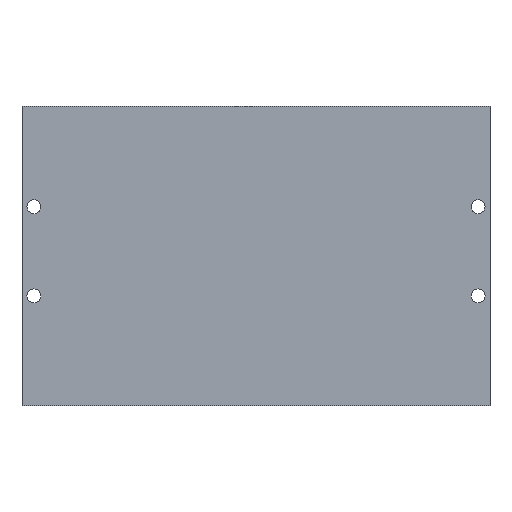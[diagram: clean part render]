
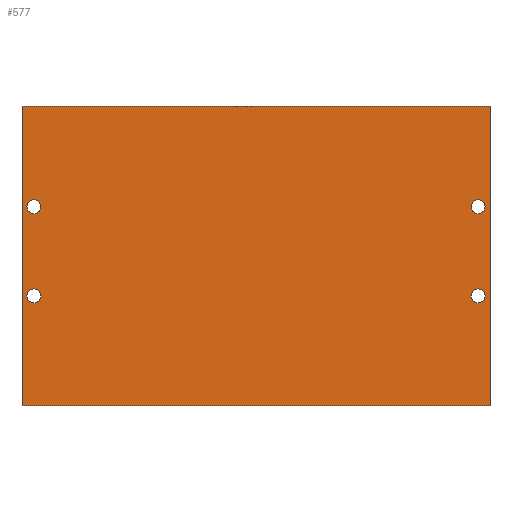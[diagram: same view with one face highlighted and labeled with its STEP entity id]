
A CAD part, front view. The second image highlights one B-rep face of the part: STEP entity #577.
In plain terms, the highlighted planar face has unit normal (0, -1, 0).
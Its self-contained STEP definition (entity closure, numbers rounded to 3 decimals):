
#2 = CARTESIAN_POINT ( 'NONE',  ( -56., 0., -8.3 ) ) ;
#21 = CARTESIAN_POINT ( 'NONE',  ( 59., 0., -37.75 ) ) ;
#22 = DIRECTION ( 'NONE',  ( 0., 0., 1. ) ) ;
#26 = VERTEX_POINT ( 'NONE', #531 ) ;
#31 = VERTEX_POINT ( 'NONE', #275 ) ;
#40 = DIRECTION ( 'NONE',  ( 0., 0., 1. ) ) ;
#41 = CARTESIAN_POINT ( 'NONE',  ( 56., 0., -10.05 ) ) ;
#44 = EDGE_CURVE ( 'NONE', #136, #26, #593, .T. ) ;
#51 = ORIENTED_EDGE ( 'NONE', *, *, #937, .T. ) ;
#54 = LINE ( 'NONE', #401, #627 ) ;
#67 = AXIS2_PLACEMENT_3D ( 'NONE', #884, #874, #40 ) ;
#68 = DIRECTION ( 'NONE',  ( 0., -1., 0. ) ) ;
#76 = DIRECTION ( 'NONE',  ( 0., 0., -1. ) ) ;
#79 = DIRECTION ( 'NONE',  ( 0., 0., 1. ) ) ;
#82 = CARTESIAN_POINT ( 'NONE',  ( 56., 0., 10.7 ) ) ;
#92 = VERTEX_POINT ( 'NONE', #579 ) ;
#106 = DIRECTION ( 'NONE',  ( -1., 0., 0. ) ) ;
#109 = CARTESIAN_POINT ( 'NONE',  ( -59., 0., 37.75 ) ) ;
#125 = CIRCLE ( 'NONE', #676, 1.75 ) ;
#126 = CARTESIAN_POINT ( 'NONE',  ( 59., 0., 37.75 ) ) ;
#130 = CIRCLE ( 'NONE', #166, 1.75 ) ;
#136 = VERTEX_POINT ( 'NONE', #491 ) ;
#143 = CARTESIAN_POINT ( 'NONE',  ( 56., 0., 12.45 ) ) ;
#155 = FACE_BOUND ( 'NONE', #607, .T. ) ;
#157 = EDGE_CURVE ( 'NONE', #863, #92, #744, .T. ) ;
#166 = AXIS2_PLACEMENT_3D ( 'NONE', #962, #497, #79 ) ;
#176 = EDGE_CURVE ( 'NONE', #26, #136, #130, .T. ) ;
#178 = DIRECTION ( 'NONE',  ( 0., 0., 1. ) ) ;
#182 = ORIENTED_EDGE ( 'NONE', *, *, #44, .T. ) ;
#190 = DIRECTION ( 'NONE',  ( 0., 0., 1. ) ) ;
#208 = PLANE ( 'NONE',  #267 ) ;
#228 = EDGE_CURVE ( 'NONE', #727, #964, #477, .T. ) ;
#238 = CARTESIAN_POINT ( 'NONE',  ( -56., 0., -11.8 ) ) ;
#243 = CARTESIAN_POINT ( 'NONE',  ( 56., 0., 14.2 ) ) ;
#245 = CARTESIAN_POINT ( 'NONE',  ( -56., 0., 12.45 ) ) ;
#255 = CARTESIAN_POINT ( 'NONE',  ( 0., 0., 0. ) ) ;
#259 = ORIENTED_EDGE ( 'NONE', *, *, #583, .F. ) ;
#267 = AXIS2_PLACEMENT_3D ( 'NONE', #255, #68, #797 ) ;
#273 = VERTEX_POINT ( 'NONE', #82 ) ;
#275 = CARTESIAN_POINT ( 'NONE',  ( 59., 0., 37.75 ) ) ;
#333 = CARTESIAN_POINT ( 'NONE',  ( 56., 0., 12.45 ) ) ;
#355 = FACE_OUTER_BOUND ( 'NONE', #444, .T. ) ;
#356 = EDGE_LOOP ( 'NONE', ( #405, #671 ) ) ;
#377 = FACE_BOUND ( 'NONE', #356, .T. ) ;
#401 = CARTESIAN_POINT ( 'NONE',  ( -59., 0., 37.75 ) ) ;
#405 = ORIENTED_EDGE ( 'NONE', *, *, #658, .T. ) ;
#414 = ORIENTED_EDGE ( 'NONE', *, *, #176, .T. ) ;
#421 = ORIENTED_EDGE ( 'NONE', *, *, #886, .F. ) ;
#444 = EDGE_LOOP ( 'NONE', ( #259, #850, #678, #421 ) ) ;
#449 = CARTESIAN_POINT ( 'NONE',  ( 56., 0., -8.3 ) ) ;
#451 = DIRECTION ( 'NONE',  ( 0., 1., 0. ) ) ;
#461 = EDGE_CURVE ( 'NONE', #648, #900, #835, .T. ) ;
#474 = ORIENTED_EDGE ( 'NONE', *, *, #157, .T. ) ;
#477 = LINE ( 'NONE', #109, #878 ) ;
#484 = CIRCLE ( 'NONE', #646, 1.75 ) ;
#489 = EDGE_LOOP ( 'NONE', ( #414, #182 ) ) ;
#491 = CARTESIAN_POINT ( 'NONE',  ( -56., 0., 14.2 ) ) ;
#492 = EDGE_CURVE ( 'NONE', #951, #273, #818, .T. ) ;
#497 = DIRECTION ( 'NONE',  ( 0., 1., 0. ) ) ;
#502 = CIRCLE ( 'NONE', #988, 1.75 ) ;
#531 = CARTESIAN_POINT ( 'NONE',  ( -56., 0., 10.7 ) ) ;
#543 = DIRECTION ( 'NONE',  ( 0., 0., 1. ) ) ;
#555 = FACE_BOUND ( 'NONE', #489, .T. ) ;
#557 = CARTESIAN_POINT ( 'NONE',  ( -56., 0., -10.05 ) ) ;
#562 = DIRECTION ( 'NONE',  ( 0., 0., 1. ) ) ;
#565 = DIRECTION ( 'NONE',  ( 0., 1., 0. ) ) ;
#577 = ADVANCED_FACE ( 'NONE', ( #975, #377, #355, #555, #155 ), #208, .T. ) ;
#579 = CARTESIAN_POINT ( 'NONE',  ( 56., 0., -11.8 ) ) ;
#583 = EDGE_CURVE ( 'NONE', #31, #690, #747, .T. ) ;
#593 = CIRCLE ( 'NONE', #702, 1.75 ) ;
#605 = VECTOR ( 'NONE', #106, 1000. ) ;
#607 = EDGE_LOOP ( 'NONE', ( #51, #632 ) ) ;
#610 = CARTESIAN_POINT ( 'NONE',  ( -59., 0., 37.75 ) ) ;
#621 = DIRECTION ( 'NONE',  ( 0., 0., 1. ) ) ;
#627 = VECTOR ( 'NONE', #711, 1000. ) ;
#632 = ORIENTED_EDGE ( 'NONE', *, *, #492, .T. ) ;
#636 = LINE ( 'NONE', #761, #605 ) ;
#646 = AXIS2_PLACEMENT_3D ( 'NONE', #333, #875, #621 ) ;
#648 = VERTEX_POINT ( 'NONE', #2 ) ;
#654 = DIRECTION ( 'NONE',  ( 0., 1., 0. ) ) ;
#658 = EDGE_CURVE ( 'NONE', #900, #648, #125, .T. ) ;
#671 = ORIENTED_EDGE ( 'NONE', *, *, #461, .T. ) ;
#676 = AXIS2_PLACEMENT_3D ( 'NONE', #557, #721, #178 ) ;
#678 = ORIENTED_EDGE ( 'NONE', *, *, #228, .F. ) ;
#690 = VERTEX_POINT ( 'NONE', #21 ) ;
#695 = AXIS2_PLACEMENT_3D ( 'NONE', #864, #451, #995 ) ;
#702 = AXIS2_PLACEMENT_3D ( 'NONE', #245, #654, #562 ) ;
#711 = DIRECTION ( 'NONE',  ( 1., 0., 0. ) ) ;
#716 = EDGE_CURVE ( 'NONE', #964, #31, #54, .T. ) ;
#721 = DIRECTION ( 'NONE',  ( 0., 1., 0. ) ) ;
#727 = VERTEX_POINT ( 'NONE', #947 ) ;
#744 = CIRCLE ( 'NONE', #67, 1.75 ) ;
#747 = LINE ( 'NONE', #126, #928 ) ;
#761 = CARTESIAN_POINT ( 'NONE',  ( -59., 0., -37.75 ) ) ;
#797 = DIRECTION ( 'NONE',  ( 0., 0., -1. ) ) ;
#800 = EDGE_CURVE ( 'NONE', #92, #863, #502, .T. ) ;
#806 = AXIS2_PLACEMENT_3D ( 'NONE', #143, #825, #543 ) ;
#818 = CIRCLE ( 'NONE', #806, 1.75 ) ;
#825 = DIRECTION ( 'NONE',  ( 0., 1., 0. ) ) ;
#827 = ORIENTED_EDGE ( 'NONE', *, *, #800, .T. ) ;
#832 = EDGE_LOOP ( 'NONE', ( #827, #474 ) ) ;
#835 = CIRCLE ( 'NONE', #695, 1.75 ) ;
#850 = ORIENTED_EDGE ( 'NONE', *, *, #716, .F. ) ;
#863 = VERTEX_POINT ( 'NONE', #449 ) ;
#864 = CARTESIAN_POINT ( 'NONE',  ( -56., 0., -10.05 ) ) ;
#874 = DIRECTION ( 'NONE',  ( 0., 1., 0. ) ) ;
#875 = DIRECTION ( 'NONE',  ( 0., 1., 0. ) ) ;
#878 = VECTOR ( 'NONE', #22, 1000. ) ;
#884 = CARTESIAN_POINT ( 'NONE',  ( 56., 0., -10.05 ) ) ;
#886 = EDGE_CURVE ( 'NONE', #690, #727, #636, .T. ) ;
#900 = VERTEX_POINT ( 'NONE', #238 ) ;
#928 = VECTOR ( 'NONE', #76, 1000. ) ;
#937 = EDGE_CURVE ( 'NONE', #273, #951, #484, .T. ) ;
#947 = CARTESIAN_POINT ( 'NONE',  ( -59., 0., -37.75 ) ) ;
#951 = VERTEX_POINT ( 'NONE', #243 ) ;
#962 = CARTESIAN_POINT ( 'NONE',  ( -56., 0., 12.45 ) ) ;
#964 = VERTEX_POINT ( 'NONE', #610 ) ;
#975 = FACE_BOUND ( 'NONE', #832, .T. ) ;
#988 = AXIS2_PLACEMENT_3D ( 'NONE', #41, #565, #190 ) ;
#995 = DIRECTION ( 'NONE',  ( 0., 0., 1. ) ) ;
